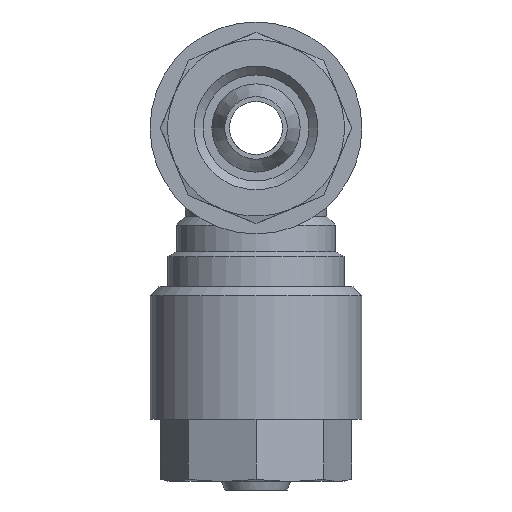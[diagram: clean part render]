
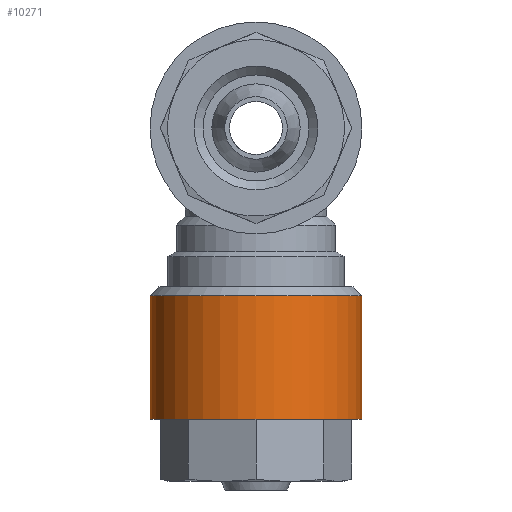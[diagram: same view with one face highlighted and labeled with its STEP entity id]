
A CAD part, left-side view. The second image highlights one B-rep face of the part: STEP entity #10271.
In plain terms, the highlighted cylindrical face has radius 6 mm (diameter 12 mm), a full revolution.
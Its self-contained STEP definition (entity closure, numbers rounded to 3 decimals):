
#3513=CYLINDRICAL_SURFACE('',#9987,6.);
#4073=ORIENTED_EDGE('',*,*,#4792,.F.);
#4074=ORIENTED_EDGE('',*,*,#4793,.T.);
#4290=CIRCLE('',#9986,6.);
#4291=CIRCLE('',#9988,6.);
#4497=VERTEX_POINT('',#9574);
#4498=VERTEX_POINT('',#9577);
#4792=EDGE_CURVE('',#4497,#4497,#4290,.T.);
#4793=EDGE_CURVE('',#4498,#4498,#4291,.T.);
#5044=EDGE_LOOP('',(#4073));
#5045=EDGE_LOOP('',(#4074));
#5292=FACE_BOUND('',#5044,.T.);
#5293=FACE_BOUND('',#5045,.T.);
#5988=DIRECTION('',(0.,1.,0.));
#5989=DIRECTION('',(0.,0.,-6.));
#5990=DIRECTION('',(0.,1.,0.));
#5991=DIRECTION('',(1.,0.,0.));
#5992=DIRECTION('',(0.,1.,0.));
#5993=DIRECTION('',(0.,0.,6.));
#9574=CARTESIAN_POINT('',(0.,7.5,-6.));
#9575=CARTESIAN_POINT('',(0.,7.5,0.));
#9576=CARTESIAN_POINT('',(0.,0.5,0.));
#9577=CARTESIAN_POINT('',(0.,0.5,6.));
#9578=CARTESIAN_POINT('',(0.,0.5,0.));
#9986=AXIS2_PLACEMENT_3D('',#9575,#5988,#5989);
#9987=AXIS2_PLACEMENT_3D('',#9576,#5990,#5991);
#9988=AXIS2_PLACEMENT_3D('',#9578,#5992,#5993);
#10271=ADVANCED_FACE('',(#5292,#5293),#3513,.T.);
